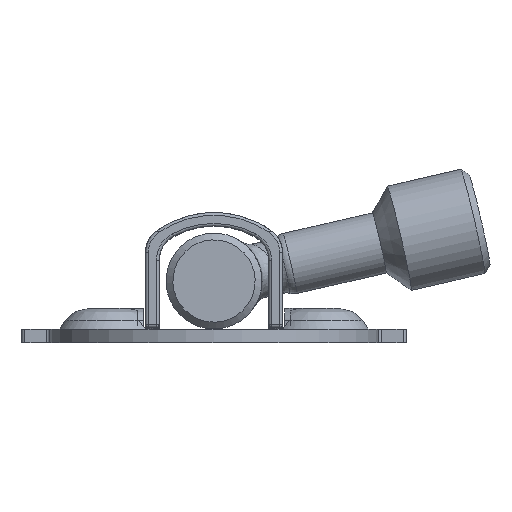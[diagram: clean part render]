
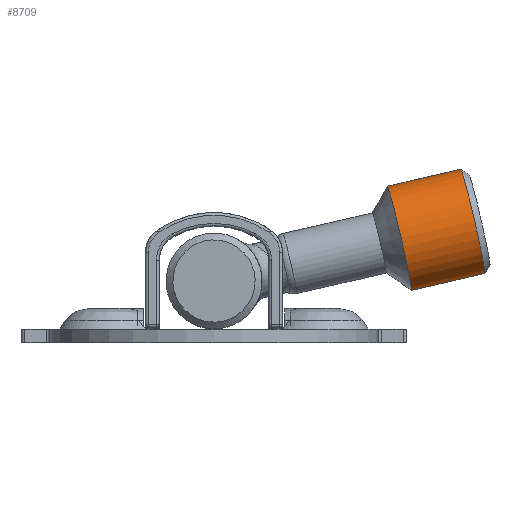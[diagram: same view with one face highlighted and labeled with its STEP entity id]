
A CAD part, left-side view. The second image highlights one B-rep face of the part: STEP entity #8709.
In plain terms, the highlighted cylindrical face has radius 3.9 mm (diameter 7.8 mm), a full revolution.
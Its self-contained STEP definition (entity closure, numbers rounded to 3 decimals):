
#1518=CYLINDRICAL_SURFACE('',#9355,3.9);
#1708=FACE_BOUND('',#2422,.T.);
#1822=FACE_OUTER_BOUND('',#2421,.T.);
#2421=EDGE_LOOP('',(#6146));
#2422=EDGE_LOOP('',(#6147));
#3019=CIRCLE('',#9353,3.9);
#3021=CIRCLE('',#9356,3.9);
#3700=VERTEX_POINT('',#13586);
#3702=VERTEX_POINT('',#13591);
#4594=EDGE_CURVE('',#3700,#3700,#3019,.T.);
#4596=EDGE_CURVE('',#3702,#3702,#3021,.T.);
#6146=ORIENTED_EDGE('',*,*,#4596,.F.);
#6147=ORIENTED_EDGE('',*,*,#4594,.F.);
#8709=ADVANCED_FACE('',(#1822,#1708),#1518,.T.);
#9353=AXIS2_PLACEMENT_3D('',#13587,#10688,#10689);
#9355=AXIS2_PLACEMENT_3D('',#13590,#10692,#10693);
#9356=AXIS2_PLACEMENT_3D('',#13592,#10694,#10695);
#10688=DIRECTION('center_axis',(0.035,0.999,0.));
#10689=DIRECTION('ref_axis',(0.999,-0.035,0.));
#10692=DIRECTION('center_axis',(0.035,0.999,0.));
#10693=DIRECTION('ref_axis',(-0.999,0.035,0.));
#10694=DIRECTION('center_axis',(-0.035,-0.999,
0.));
#10695=DIRECTION('ref_axis',(0.999,-0.035,0.));
#13586=CARTESIAN_POINT('',(24.656,19.495,0.));
#13587=CARTESIAN_POINT('Origin',(28.554,19.359,0.));
#13590=CARTESIAN_POINT('Origin',(28.44,16.111,0.));
#13591=CARTESIAN_POINT('',(24.464,13.998,0.));
#13592=CARTESIAN_POINT('Origin',(28.362,13.862,0.));
